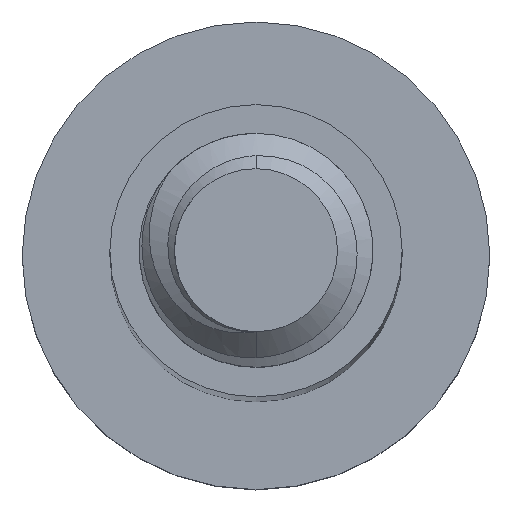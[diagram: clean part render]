
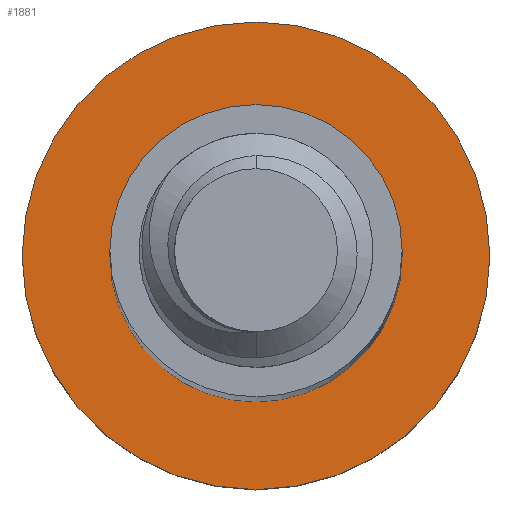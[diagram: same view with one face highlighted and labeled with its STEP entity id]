
A CAD part, top view. The second image highlights one B-rep face of the part: STEP entity #1881.
In plain terms, the highlighted planar face has unit normal (0, 0, 1).
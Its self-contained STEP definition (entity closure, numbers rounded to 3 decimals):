
#15 = EDGE_CURVE ( 'NONE', #681, #1615, #259, .T. ) ;
#34 = CIRCLE ( 'NONE', #290, 2.5 ) ;
#96 = FACE_OUTER_BOUND ( 'NONE', #1136, .T. ) ;
#101 = AXIS2_PLACEMENT_3D ( 'NONE', #1342, #1715, #1551 ) ;
#121 = ORIENTED_EDGE ( 'NONE', *, *, #1735, .T. ) ;
#145 = ORIENTED_EDGE ( 'NONE', *, *, #1981, .F. ) ;
#189 = DIRECTION ( 'NONE',  ( 0., 0., -1. ) ) ;
#259 = CIRCLE ( 'NONE', #1752, 2.5 ) ;
#290 = AXIS2_PLACEMENT_3D ( 'NONE', #1492, #189, #2158 ) ;
#316 = DIRECTION ( 'NONE',  ( -1., 0., 0. ) ) ;
#363 = CARTESIAN_POINT ( 'NONE',  ( 2.5, 0., -50. ) ) ;
#441 = ORIENTED_EDGE ( 'NONE', *, *, #15, .T. ) ;
#531 = VERTEX_POINT ( 'NONE', #1333 ) ;
#603 = CARTESIAN_POINT ( 'NONE',  ( -2.5, 0., -50. ) ) ;
#681 = VERTEX_POINT ( 'NONE', #603 ) ;
#858 = EDGE_CURVE ( 'NONE', #1020, #531, #1188, .T. ) ;
#866 = DIRECTION ( 'NONE',  ( 0., 0., -1. ) ) ;
#1020 = VERTEX_POINT ( 'NONE', #1591 ) ;
#1098 = CARTESIAN_POINT ( 'NONE',  ( 0., 0., -50. ) ) ;
#1136 = EDGE_LOOP ( 'NONE', ( #145, #1713 ) ) ;
#1188 = CIRCLE ( 'NONE', #101, 4. ) ;
#1328 = DIRECTION ( 'NONE',  ( 0., 0., -1. ) ) ;
#1333 = CARTESIAN_POINT ( 'NONE',  ( 4., 0., -50. ) ) ;
#1335 = AXIS2_PLACEMENT_3D ( 'NONE', #2130, #1328, #316 ) ;
#1342 = CARTESIAN_POINT ( 'NONE',  ( 0., 0., -50. ) ) ;
#1367 = DIRECTION ( 'NONE',  ( 0., 0., -1. ) ) ;
#1436 = CIRCLE ( 'NONE', #1335, 4. ) ;
#1492 = CARTESIAN_POINT ( 'NONE',  ( 0., 0., -50. ) ) ;
#1551 = DIRECTION ( 'NONE',  ( -1., 0., 0. ) ) ;
#1591 = CARTESIAN_POINT ( 'NONE',  ( -4., 0., -50. ) ) ;
#1615 = VERTEX_POINT ( 'NONE', #363 ) ;
#1713 = ORIENTED_EDGE ( 'NONE', *, *, #858, .F. ) ;
#1715 = DIRECTION ( 'NONE',  ( 0., 0., -1. ) ) ;
#1729 = CARTESIAN_POINT ( 'NONE',  ( 0., 0., -50. ) ) ;
#1735 = EDGE_CURVE ( 'NONE', #1615, #681, #34, .T. ) ;
#1752 = AXIS2_PLACEMENT_3D ( 'NONE', #1729, #1367, #1866 ) ;
#1808 = EDGE_LOOP ( 'NONE', ( #441, #121 ) ) ;
#1821 = AXIS2_PLACEMENT_3D ( 'NONE', #1098, #866, #1867 ) ;
#1866 = DIRECTION ( 'NONE',  ( -1., 0., 0. ) ) ;
#1867 = DIRECTION ( 'NONE',  ( -1., 0., 0. ) ) ;
#1881 = ADVANCED_FACE ( 'NONE', ( #1917, #96 ), #1939, .F. ) ;
#1917 = FACE_BOUND ( 'NONE', #1808, .T. ) ;
#1939 = PLANE ( 'NONE',  #1821 ) ;
#1981 = EDGE_CURVE ( 'NONE', #531, #1020, #1436, .T. ) ;
#2130 = CARTESIAN_POINT ( 'NONE',  ( 0., 0., -50. ) ) ;
#2158 = DIRECTION ( 'NONE',  ( -1., 0., 0. ) ) ;
